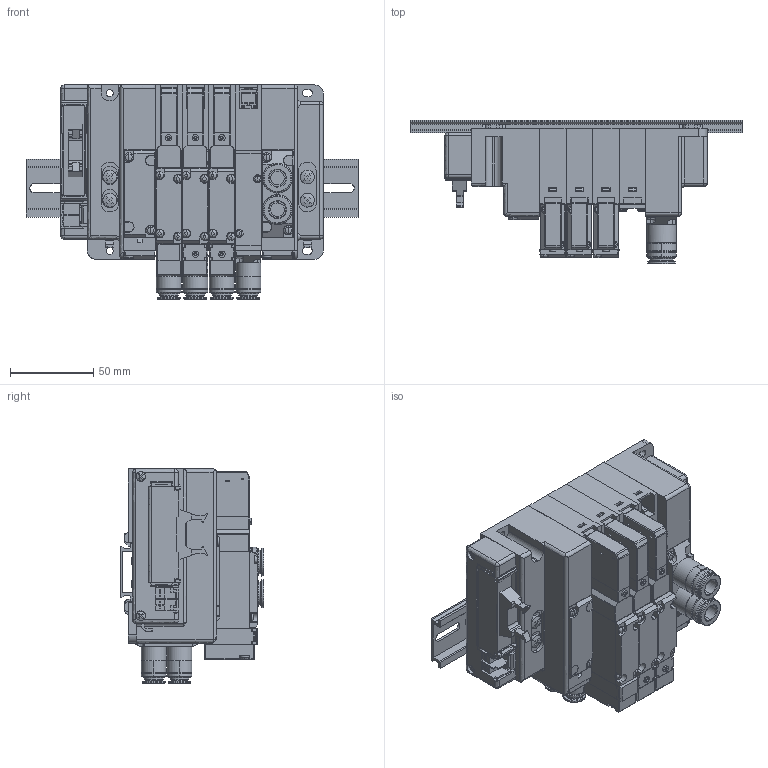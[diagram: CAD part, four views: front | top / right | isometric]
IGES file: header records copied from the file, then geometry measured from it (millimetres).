
Start section: ------------------------------------------------------------------------
Global section: file name: D:\ICADMX\tmp\trans3d_spg\CVICAD02.5220.F15M4XPJ-JR-F10x-DR_16675.igs; native system: spGate; preprocessor: ver12.6.6; author: Unknown; organization: Unknown; date: 210712.184829; units: millimetre
Bounding box: 200 x 86.6 x 129 mm (x, y, z)
Volume: 847561.2 mm3; surface area: 238543.7 mm2
Topology: 39 solids, 39 shells, 3910 faces, 10245 edges, 6588 vertices
Faces by surface type: bspline 3910
